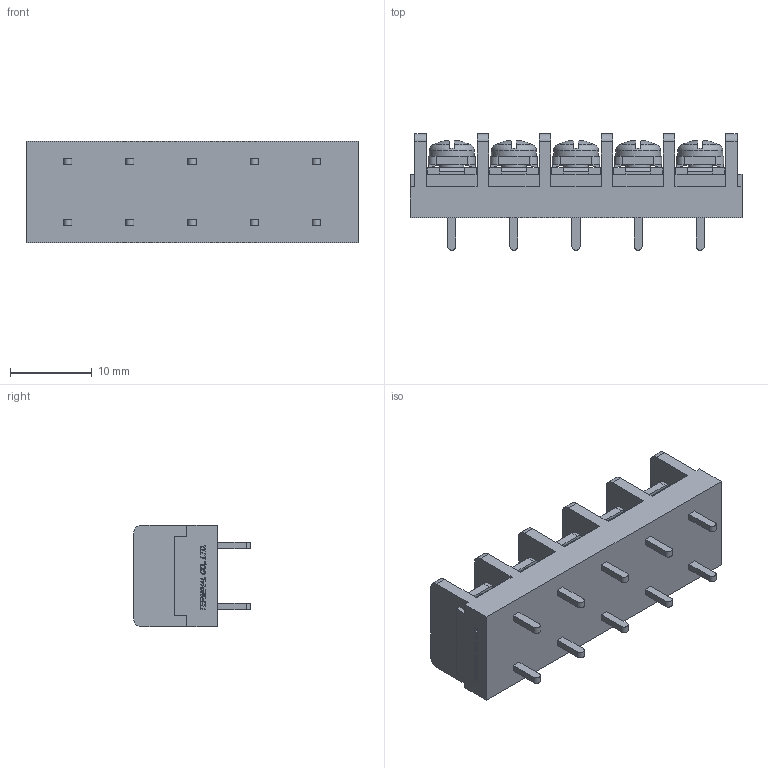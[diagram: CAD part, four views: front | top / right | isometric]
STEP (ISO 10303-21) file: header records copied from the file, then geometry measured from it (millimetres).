
FILE_DESCRIPTION(/* description */ ('Alibre Inc.'),/* implementation_level */ '2;1');
FILE_NAME(/* name */ 'export0',/* time_stamp */ '2015-10-26T18:20:54+09:00',/* author */ (''),/* organization */ (''),/* preprocessor_version */ 'ST-DEVELOPER v14',/* originating_system */ 'Alibre',/* authorisation */ '');
FILE_SCHEMA (('CONFIG_CONTROL_DESIGN'));
Length unit declared in the file: centimetre
Products named in the file (1): ID_1
Bounding box: 40.72 x 14.3 x 12.5 mm (x, y, z)
Volume: 3705.7 mm3; surface area: 3477.2 mm2
Topology: 1 solids, 1 shells, 891 faces, 2422 edges, 1598 vertices
Faces by surface type: plane 685, bspline 104, cylinder 62, cone 20, torus 10, sphere 10
Full cylindrical faces by diameter (mm): 3 x5, 5.5 x5
Entity records: 26745 total; most frequent: CARTESIAN_POINT 5990, ORIENTED_EDGE 4784, DIRECTION 3156, EDGE_CURVE 2392, VECTOR 1760, LINE 1760, VERTEX_POINT 1588, AXIS2_PLACEMENT_3D 1014
